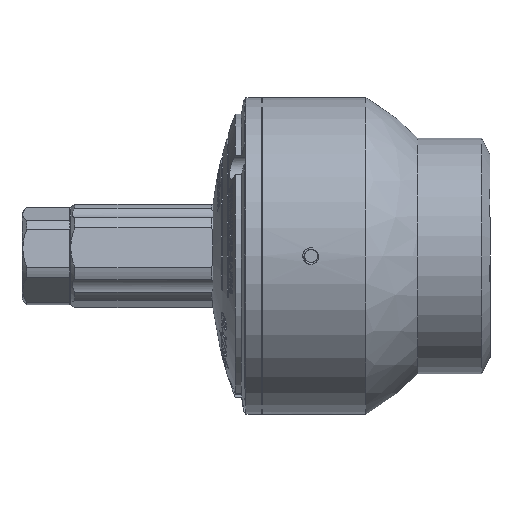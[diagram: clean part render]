
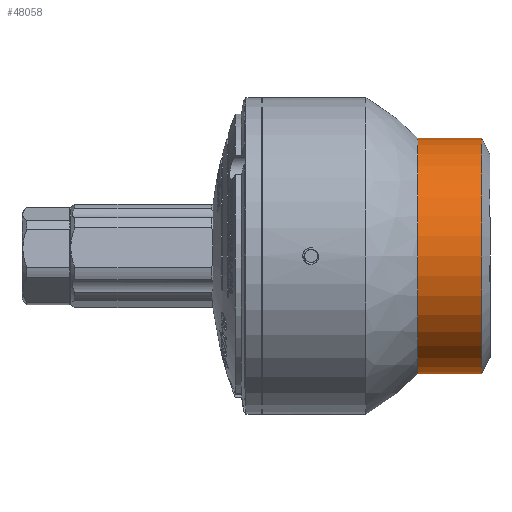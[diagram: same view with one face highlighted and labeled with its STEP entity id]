
A CAD part, front view. The second image highlights one B-rep face of the part: STEP entity #48058.
In plain terms, the highlighted cylindrical face has radius 14.5 mm (diameter 29 mm), a full revolution.
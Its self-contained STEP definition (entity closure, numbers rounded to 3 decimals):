
#2680=CIRCLE('',#51183,14.5);
#2682=CIRCLE('',#51187,14.5);
#2683=CIRCLE('',#51188,14.5);
#3834=CYLINDRICAL_SURFACE('',#51186,14.5);
#5256=FACE_OUTER_BOUND('',#8119,.T.);
#8119=EDGE_LOOP('',(#37477,#37478,#37479,#37480,#37481));
#10887=LINE('',#101555,#13385);
#13385=VECTOR('',#57598,14.5);
#20069=VERTEX_POINT('',#101545);
#20071=VERTEX_POINT('',#101551);
#20072=VERTEX_POINT('',#101552);
#26321=EDGE_CURVE('',#20069,#20069,#2680,.T.);
#26323=EDGE_CURVE('',#20071,#20072,#2682,.T.);
#26324=EDGE_CURVE('',#20072,#20071,#2683,.T.);
#26325=EDGE_CURVE('',#20072,#20069,#10887,.T.);
#37477=ORIENTED_EDGE('',*,*,#26323,.F.);
#37478=ORIENTED_EDGE('',*,*,#26324,.F.);
#37479=ORIENTED_EDGE('',*,*,#26325,.T.);
#37480=ORIENTED_EDGE('',*,*,#26321,.T.);
#37481=ORIENTED_EDGE('',*,*,#26325,.F.);
#48058=ADVANCED_FACE('',(#5256),#3834,.T.);
#51183=AXIS2_PLACEMENT_3D('',#101546,#57586,#57587);
#51186=AXIS2_PLACEMENT_3D('',#101550,#57592,#57593);
#51187=AXIS2_PLACEMENT_3D('',#101553,#57594,#57595);
#51188=AXIS2_PLACEMENT_3D('',#101554,#57596,#57597);
#57586=DIRECTION('center_axis',(0.,1.,0.));
#57587=DIRECTION('ref_axis',(0.174,0.,0.985));
#57592=DIRECTION('center_axis',(0.,1.,0.));
#57593=DIRECTION('ref_axis',(0.985,0.,-0.174));
#57594=DIRECTION('center_axis',(0.,1.,0.));
#57595=DIRECTION('ref_axis',(-0.985,0.,0.174));
#57596=DIRECTION('center_axis',(0.,1.,0.));
#57597=DIRECTION('ref_axis',(-0.985,0.,0.174));
#57598=DIRECTION('',(0.,-1.,0.));
#101545=CARTESIAN_POINT('',(-14.28,19.095,2.518));
#101546=CARTESIAN_POINT('Origin',(0.,19.095,
0.));
#101550=CARTESIAN_POINT('Origin',(0.,23.548,
0.));
#101551=CARTESIAN_POINT('',(14.28,27.,-2.518));
#101552=CARTESIAN_POINT('',(-14.28,27.,2.518));
#101553=CARTESIAN_POINT('Origin',(0.,27.,0.));
#101554=CARTESIAN_POINT('Origin',(0.,27.,0.));
#101555=CARTESIAN_POINT('',(-14.28,23.548,2.518));
